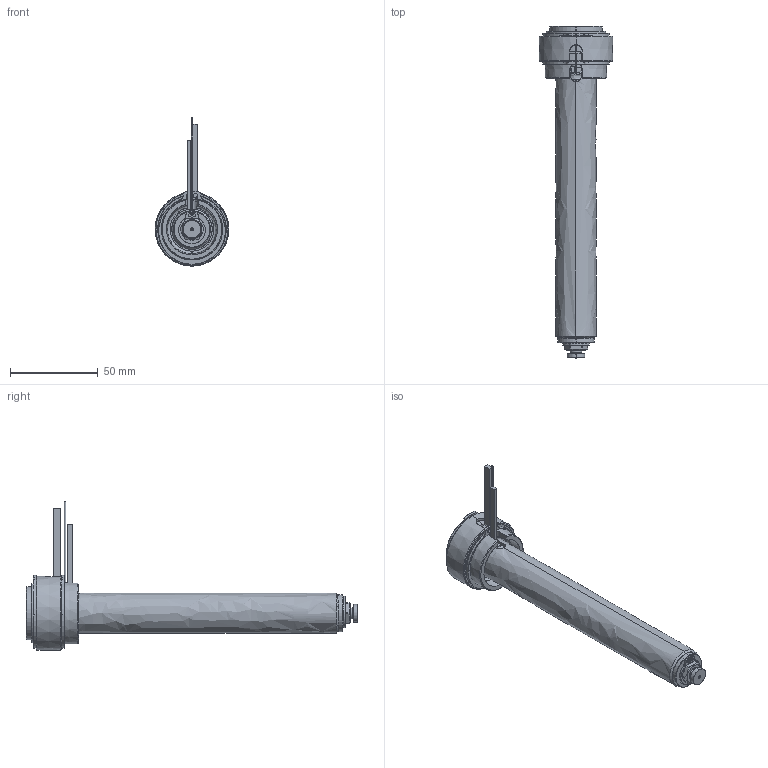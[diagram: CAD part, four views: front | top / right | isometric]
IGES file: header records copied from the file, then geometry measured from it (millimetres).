
Start section: SolidWorks IGES file using analytic representation for surfaces
Global section: file name: C:\Users\luca.EMPAD\Desktop\TEM\UGBE3504-M-A-3 [Ød-1.0 P-0 ØC-6.0].IGS; native system: SolidWorks 2012; preprocessor: SolidWorks 2012; author: luca; date: 120330.135448; units: millimetre
Bounding box: 42 x 189 x 84.4 mm (x, y, z)
Surface area: 34303.1 mm2 (no closed solid volume)
Topology: 0 solids, 0 shells, 178 faces, 3128 edges, 3128 vertices
Faces by surface type: revolution 114, bspline 64
